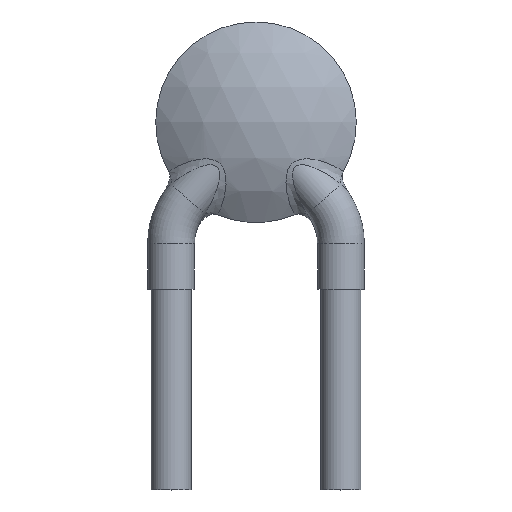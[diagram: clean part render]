
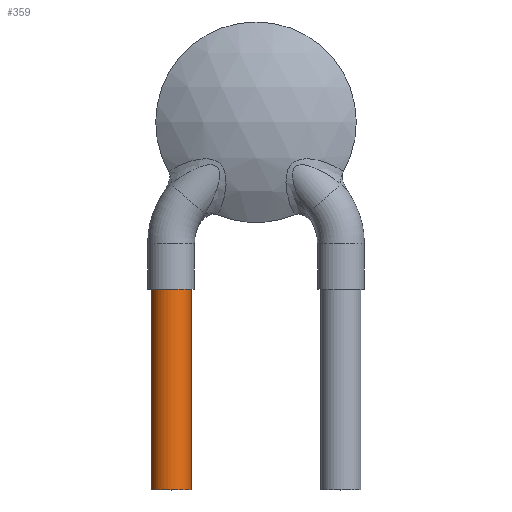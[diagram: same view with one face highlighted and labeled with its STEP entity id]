
A CAD part, top view. The second image highlights one B-rep face of the part: STEP entity #359.
In plain terms, the highlighted cylindrical face has radius 0.3 mm (diameter 0.6 mm), a full revolution.
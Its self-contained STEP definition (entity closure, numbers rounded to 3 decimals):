
#34=LINE('',#632,#38);
#38=VECTOR('',#471,0.3);
#42=CYLINDRICAL_SURFACE('',#411,0.3);
#57=FACE_OUTER_BOUND('',#85,.T.);
#85=EDGE_LOOP('',(#267,#268,#269,#270));
#123=CIRCLE('',#412,0.3);
#124=CIRCLE('',#413,0.3);
#179=VERTEX_POINT('',#629);
#180=VERTEX_POINT('',#631);
#211=EDGE_CURVE('',#179,#179,#123,.T.);
#212=EDGE_CURVE('',#179,#180,#34,.T.);
#213=EDGE_CURVE('',#180,#180,#124,.T.);
#267=ORIENTED_EDGE('',*,*,#211,.F.);
#268=ORIENTED_EDGE('',*,*,#212,.T.);
#269=ORIENTED_EDGE('',*,*,#213,.T.);
#270=ORIENTED_EDGE('',*,*,#212,.F.);
#359=ADVANCED_FACE('',(#57),#42,.T.);
#411=AXIS2_PLACEMENT_3D('',#628,#467,#468);
#412=AXIS2_PLACEMENT_3D('',#630,#469,#470);
#413=AXIS2_PLACEMENT_3D('',#633,#472,#473);
#467=DIRECTION('center_axis',(0.,1.,0.));
#468=DIRECTION('ref_axis',(0.,0.,1.));
#469=DIRECTION('center_axis',(0.,1.,0.));
#470=DIRECTION('ref_axis',(0.,0.,-1.));
#471=DIRECTION('',(0.,-1.,0.));
#472=DIRECTION('center_axis',(0.,1.,0.));
#473=DIRECTION('ref_axis',(0.,0.,-1.));
#628=CARTESIAN_POINT('Origin',(-1.27,-5.5,0.));
#629=CARTESIAN_POINT('',(-1.27,-2.5,-0.3));
#630=CARTESIAN_POINT('Origin',(-1.27,-2.5,0.));
#631=CARTESIAN_POINT('',(-1.27,-5.5,-0.3));
#632=CARTESIAN_POINT('',(-1.27,-5.5,-0.3));
#633=CARTESIAN_POINT('Origin',(-1.27,-5.5,0.));
